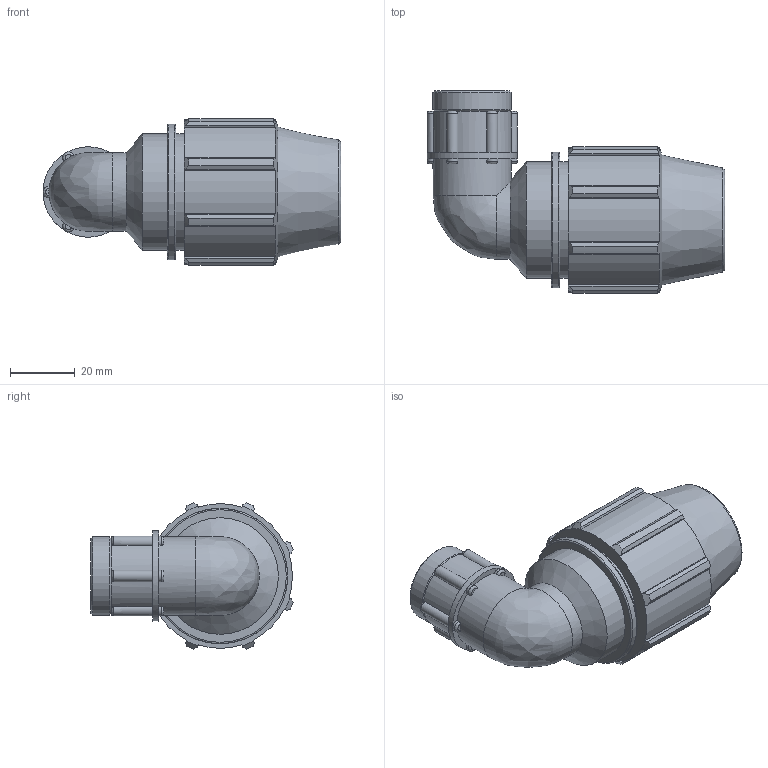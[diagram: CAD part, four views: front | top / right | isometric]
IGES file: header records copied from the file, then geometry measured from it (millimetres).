
Global section: file name: 0715M0005005.ipt; native system: Autodesk Inventor 2019; preprocessor: unknown; author: KIM; date: 20210826.124742; units: inch
Bounding box: 91.9 x 62.46 x 45.17 mm (x, y, z)
Volume: 74307.2 mm3; surface area: 22548.9 mm2
Topology: 1 solids, 1 shells, 138 faces, 380 edges, 248 vertices
Faces by surface type: plane 60, cylinder 41, revolution 22, cone 13, bspline 2
Full cylindrical faces by diameter (mm): 24.22 x2, 27.853 x1, 36.005 x2, 41.765 x1
